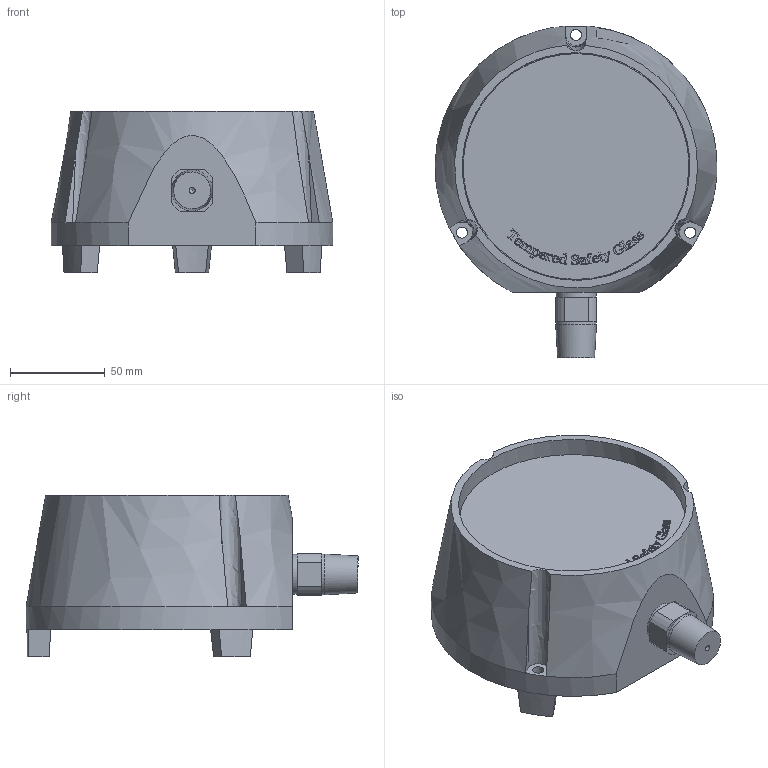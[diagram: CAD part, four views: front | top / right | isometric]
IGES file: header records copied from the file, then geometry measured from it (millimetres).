
Global section: file name: PT45 half NPT Bottom Connect; native system: Autodesk Inventor 2014; preprocessor: unknown; author: JHRichter; date: 20151103.144654; units: inch
Bounding box: 149.06 x 175.59 x 85.47 mm (x, y, z)
Volume: 910618.1 mm3; surface area: 121713.2 mm2
Topology: 23 solids, 23 shells, 1675 faces, 4772 edges, 3180 vertices
Faces by surface type: bspline 1675
